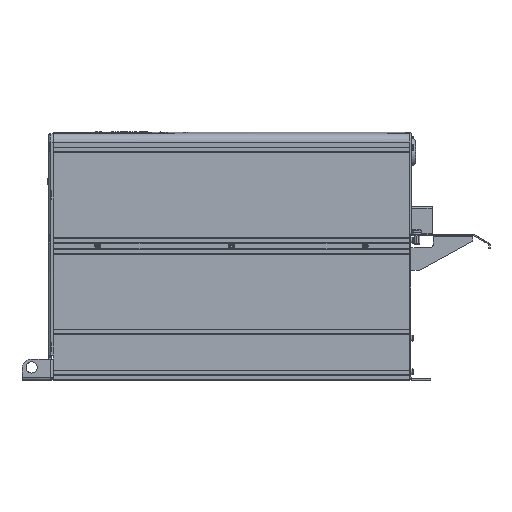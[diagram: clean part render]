
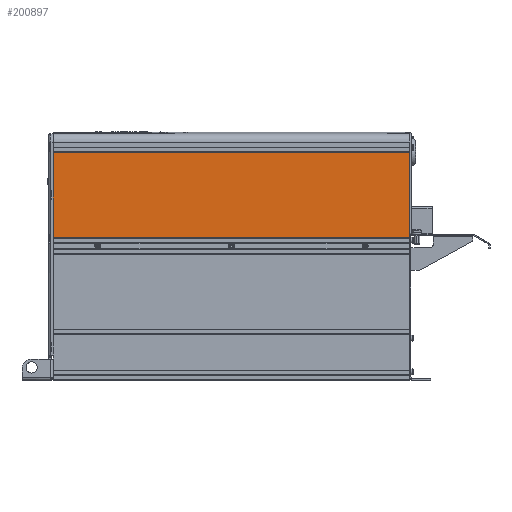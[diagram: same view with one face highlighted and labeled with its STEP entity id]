
A CAD part, left-side view. The second image highlights one B-rep face of the part: STEP entity #200897.
In plain terms, the highlighted planar face has unit normal (-1, 0, 0).
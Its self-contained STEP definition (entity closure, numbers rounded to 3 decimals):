
#13081=DIRECTION('',(0.,0.,-1.));
#13082=VECTOR('',#13081,12.);
#13083=CARTESIAN_POINT('',(-151.5,236.875,255.5));
#13084=LINE('',#13083,#13082);
#15690=DIRECTION('',(0.,0.,1.));
#15691=VECTOR('',#15690,3.);
#15692=CARTESIAN_POINT('',(-151.5,-243.13,193.5));
#15693=LINE('',#15692,#15691);
#59299=DIRECTION('',(0.,-1.,0.));
#59300=VECTOR('',#59299,480.005);
#59301=CARTESIAN_POINT('',(-151.5,236.875,191.6));
#59302=LINE('',#59301,#59300);
#59306=DIRECTION('',(0.,0.,-1.));
#59307=VECTOR('',#59306,51.9);
#59308=CARTESIAN_POINT('',(-151.5,236.875,243.5));
#59309=LINE('',#59308,#59307);
#59313=DIRECTION('',(0.,0.,-1.));
#59314=VECTOR('',#59313,51.5);
#59315=CARTESIAN_POINT('',(-151.5,236.875,307.));
#59316=LINE('',#59315,#59314);
#59320=DIRECTION('',(0.,1.,0.));
#59321=VECTOR('',#59320,480.005);
#59322=CARTESIAN_POINT('',(-151.5,-243.13,307.));
#59323=LINE('',#59322,#59321);
#59327=DIRECTION('',(0.,0.,-1.));
#59328=VECTOR('',#59327,110.5);
#59329=CARTESIAN_POINT('',(-151.5,-243.13,307.));
#59330=LINE('',#59329,#59328);
#59334=DIRECTION('',(0.,0.,1.));
#59335=VECTOR('',#59334,1.9);
#59336=CARTESIAN_POINT('',(-151.5,-243.13,191.6));
#59337=LINE('',#59336,#59335);
#127268=CARTESIAN_POINT('',(-151.5,236.875,243.5));
#127269=VERTEX_POINT('',#127268);
#127314=CARTESIAN_POINT('',(-151.5,236.875,255.5));
#127315=VERTEX_POINT('',#127314);
#127997=CARTESIAN_POINT('',(-151.5,-243.13,196.5));
#127999=VERTEX_POINT('',#127997);
#129030=CARTESIAN_POINT('',(-151.5,-243.13,193.5));
#129032=VERTEX_POINT('',#129030);
#131233=CARTESIAN_POINT('',(-151.5,-243.13,307.));
#131234=CARTESIAN_POINT('',(-151.5,236.875,307.));
#131235=VERTEX_POINT('',#131233);
#131236=VERTEX_POINT('',#131234);
#131241=CARTESIAN_POINT('',(-151.5,236.875,191.6));
#131242=CARTESIAN_POINT('',(-151.5,-243.13,191.6));
#131243=VERTEX_POINT('',#131241);
#131244=VERTEX_POINT('',#131242);
#200880=CARTESIAN_POINT('',(-151.5,236.875,320.));
#200881=DIRECTION('',(-1.,0.,0.));
#200882=DIRECTION('',(0.,0.,-1.));
#200883=AXIS2_PLACEMENT_3D('',#200880,#200881,#200882);
#200884=PLANE('',#200883);
#200886=ORIENTED_EDGE('',*,*,#200885,.F.);
#200887=ORIENTED_EDGE('',*,*,#200791,.F.);
#200888=ORIENTED_EDGE('',*,*,#146158,.F.);
#200889=ORIENTED_EDGE('',*,*,#200824,.F.);
#200891=ORIENTED_EDGE('',*,*,#200890,.F.);
#200892=ORIENTED_EDGE('',*,*,#147301,.T.);
#200893=ORIENTED_EDGE('',*,*,#148206,.F.);
#200894=ORIENTED_EDGE('',*,*,#144959,.F.);
#200895=EDGE_LOOP('',(#200886,#200887,#200888,#200889,#200891,#200892,#200893,
#200894));
#200896=FACE_OUTER_BOUND('',#200895,.F.);
#200897=ADVANCED_FACE('',(#200896),#200884,.T.);
#144959=EDGE_CURVE('',#131244,#129032,#59337,.T.);
#146158=EDGE_CURVE('',#127315,#127269,#13084,.T.);
#147301=EDGE_CURVE('',#131235,#127999,#59330,.T.);
#148206=EDGE_CURVE('',#129032,#127999,#15693,.T.);
#200791=EDGE_CURVE('',#127269,#131243,#59309,.T.);
#200824=EDGE_CURVE('',#131236,#127315,#59316,.T.);
#200885=EDGE_CURVE('',#131243,#131244,#59302,.T.);
#200890=EDGE_CURVE('',#131235,#131236,#59323,.T.);
